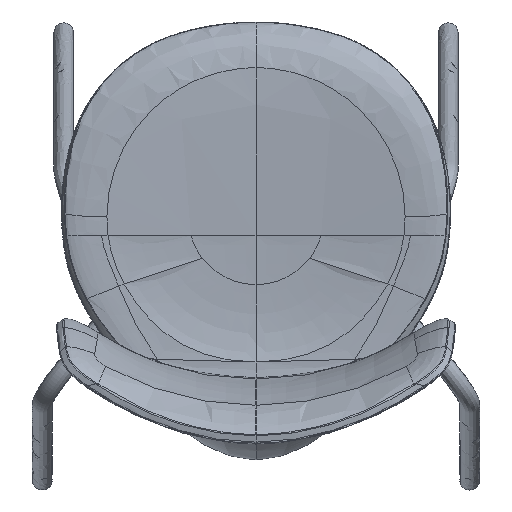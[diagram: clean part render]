
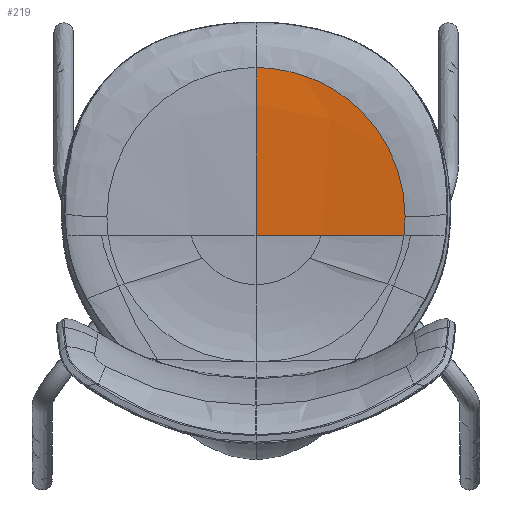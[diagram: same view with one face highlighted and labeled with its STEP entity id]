
A CAD part, top view. The second image highlights one B-rep face of the part: STEP entity #219.
In plain terms, the highlighted free-form (B-spline) face has degree [2, 3] with [3, 5] control points.
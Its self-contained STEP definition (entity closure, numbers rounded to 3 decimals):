
#219=ADVANCED_FACE($,(#1007),#10763,.T.);
#1007=FACE_OUTER_BOUND($,#1797,.T.);
#1797=EDGE_LOOP($,(#3241,#3242,#3243,#3244,#3245));
#3241=ORIENTED_EDGE($,*,*,#6863,.T.);
#3242=ORIENTED_EDGE($,*,*,#6858,.F.);
#3243=ORIENTED_EDGE($,*,*,#6864,.F.);
#3244=ORIENTED_EDGE($,*,*,#6865,.T.);
#3245=ORIENTED_EDGE($,*,*,#6862,.F.);
#6858=EDGE_CURVE($,#9009,#9008,#11349,.T.);
#6862=EDGE_CURVE($,#9011,#9013,#11353,.T.);
#6863=EDGE_CURVE($,#9011,#9008,#11354,.T.);
#6864=EDGE_CURVE($,#9002,#9009,#11355,.T.);
#6865=EDGE_CURVE($,#9002,#9013,#11356,.T.);
#9002=VERTEX_POINT($,#62585);
#9008=VERTEX_POINT($,#62591);
#9009=VERTEX_POINT($,#62592);
#9011=VERTEX_POINT($,#62594);
#9013=VERTEX_POINT($,#62596);
#10763=(
BOUNDED_SURFACE()
B_SPLINE_SURFACE(2,3,((#41055,#41056,#41057,#41058,#41059),(#41060,#41061,
#41062,#41063,#41064),(#41065,#41066,#41067,#41068,#41069)),.UNSPECIFIED.,
.F.,.F.,.F.)
B_SPLINE_SURFACE_WITH_KNOTS((3,3),(4,1,4),(4708.172,4876.286),
(1.804,56.77,188.474),.UNSPECIFIED.)
GEOMETRIC_REPRESENTATION_ITEM()
RATIONAL_B_SPLINE_SURFACE(((1.,1.,1.,1.,1.),(0.998,0.998,
0.998,0.998,0.998),(1.,1.,1.,1.,1.)))
REPRESENTATION_ITEM($)
SURFACE()
);
#11349=B_SPLINE_CURVE_WITH_KNOTS($,3,(#22479,#22480,#22481,#22482,#22483,
#22484,#22485,#22486,#22487,#22488,#22489,#22490,#22491,#22492),.UNSPECIFIED.,
.F.,.F.,(4,2,2,2,2,2,4),(-1.,-0.75,-0.625,-0.5,
-0.375,-0.25,0.),.UNSPECIFIED.);
#11353=B_SPLINE_CURVE_WITH_KNOTS($,5,(#22510,#22511,#22512,#22513,#22514,
#22515,#22516),.UNSPECIFIED.,.F.,.F.,(6,1,6),(-72.472,-20.879,
0.),.UNSPECIFIED.);
#11354=B_SPLINE_CURVE_WITH_KNOTS($,3,(#22517,#22518,#22519,#22520,#22521),
.UNSPECIFIED.,.F.,.F.,(4,1,4),(-1.,-0.294,0.),.UNSPECIFIED.);
#11355=B_SPLINE_CURVE_WITH_KNOTS($,5,(#22522,#22523,#22524,#22525,#22526,
#22527),.UNSPECIFIED.,.F.,.F.,(6,6),(-1.,0.),.UNSPECIFIED.);
#11356=B_SPLINE_CURVE_WITH_KNOTS($,5,(#22528,#22529,#22530,#22531,#22532,
#22533,#22534,#22535,#22536),.UNSPECIFIED.,.F.,.F.,(6,1,1,1,6),(0.,23.139,
46.278,69.416,92.555),.UNSPECIFIED.);
#22479=CARTESIAN_POINT($,(166.,240.783,-360.973));
#22480=CARTESIAN_POINT($,(166.,267.473,-359.819));
#22481=CARTESIAN_POINT($,(159.42,293.679,-359.351));
#22482=CARTESIAN_POINT($,(141.876,327.917,-359.62));
#22483=CARTESIAN_POINT($,(134.65,338.647,-359.859));
#22484=CARTESIAN_POINT($,(118.586,357.608,-360.486));
#22485=CARTESIAN_POINT($,(109.846,365.71,-360.888));
#22486=CARTESIAN_POINT($,(92.644,378.952,-361.872));
#22487=CARTESIAN_POINT($,(84.285,384.087,-362.43));
#22488=CARTESIAN_POINT($,(67.981,392.5,-363.527));
#22489=CARTESIAN_POINT($,(59.998,395.81,-364.07));
#22490=CARTESIAN_POINT($,(35.089,403.965,-365.56));
#22491=CARTESIAN_POINT($,(17.039,406.783,-366.292));
#22492=CARTESIAN_POINT($,(0.,406.783,-366.292));
#22510=CARTESIAN_POINT($,(0.,220.,-371.062));
#22511=CARTESIAN_POINT($,(10.319,220.,-371.062));
#22512=CARTESIAN_POINT($,(24.812,220.,-370.938));
#22513=CARTESIAN_POINT($,(39.305,220.,-370.638));
#22514=CARTESIAN_POINT($,(53.793,220.,-370.162));
#22515=CARTESIAN_POINT($,(68.273,220.,-369.512));
#22516=CARTESIAN_POINT($,(72.444,220.,-369.31));
#22517=CARTESIAN_POINT($,(0.,220.,-371.062));
#22518=CARTESIAN_POINT($,(0.,259.494,-369.495));
#22519=CARTESIAN_POINT($,(0.,320.741,-366.396));
#22520=CARTESIAN_POINT($,(0.,389.122,-364.057));
#22521=CARTESIAN_POINT($,(0.,406.783,-366.292));
#22522=CARTESIAN_POINT($,(164.694,220.,-361.985));
#22523=CARTESIAN_POINT($,(165.218,224.157,-361.761));
#22524=CARTESIAN_POINT($,(165.61,228.308,-361.548));
#22525=CARTESIAN_POINT($,(165.87,232.451,-361.345));
#22526=CARTESIAN_POINT($,(166.,236.615,-361.153));
#22527=CARTESIAN_POINT($,(166.,240.783,-360.973));
#22528=CARTESIAN_POINT($,(164.694,220.,-361.985));
#22529=CARTESIAN_POINT($,(160.094,220.,-362.494));
#22530=CARTESIAN_POINT($,(150.891,220.,-363.475));
#22531=CARTESIAN_POINT($,(137.074,220.,-364.841));
#22532=CARTESIAN_POINT($,(118.633,220.,-366.449));
#22533=CARTESIAN_POINT($,(100.168,220.,-367.772));
#22534=CARTESIAN_POINT($,(86.309,220.,-368.604));
#22535=CARTESIAN_POINT($,(77.066,220.,-369.087));
#22536=CARTESIAN_POINT($,(72.444,220.,-369.31));
#41055=CARTESIAN_POINT($,(0.,406.783,-366.292));
#41056=CARTESIAN_POINT($,(0.,389.122,-364.057));
#41057=CARTESIAN_POINT($,(0.,320.741,-366.396));
#41058=CARTESIAN_POINT($,(0.,259.494,-369.495));
#41059=CARTESIAN_POINT($,(0.,220.,-371.062));
#41060=CARTESIAN_POINT($,(83.872,406.783,-366.292));
#41061=CARTESIAN_POINT($,(83.747,389.122,-364.057));
#41062=CARTESIAN_POINT($,(83.878,320.741,-366.396));
#41063=CARTESIAN_POINT($,(84.052,259.494,-369.495));
#41064=CARTESIAN_POINT($,(84.14,220.,-371.062));
#41065=CARTESIAN_POINT($,(167.217,406.783,-356.903));
#41066=CARTESIAN_POINT($,(166.967,389.122,-354.682));
#41067=CARTESIAN_POINT($,(167.229,320.741,-357.006));
#41068=CARTESIAN_POINT($,(167.576,259.494,-360.086));
#41069=CARTESIAN_POINT($,(167.751,220.,-361.644));
#62585=CARTESIAN_POINT($,(164.694,220.,-361.985));
#62591=CARTESIAN_POINT($,(0.,406.783,-366.292));
#62592=CARTESIAN_POINT($,(166.,240.783,-360.973));
#62594=CARTESIAN_POINT($,(0.,220.,-371.062));
#62596=CARTESIAN_POINT($,(72.444,220.,-369.31));
